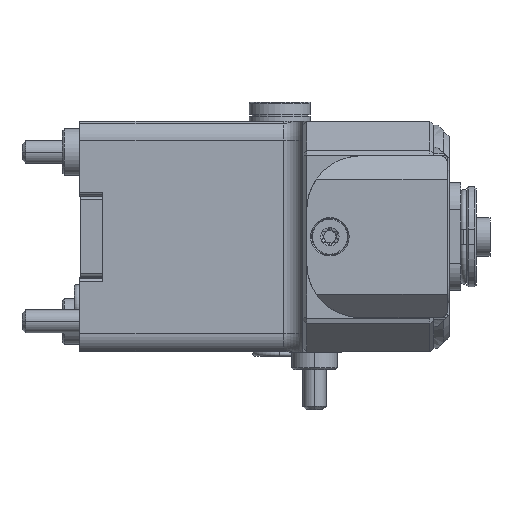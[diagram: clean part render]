
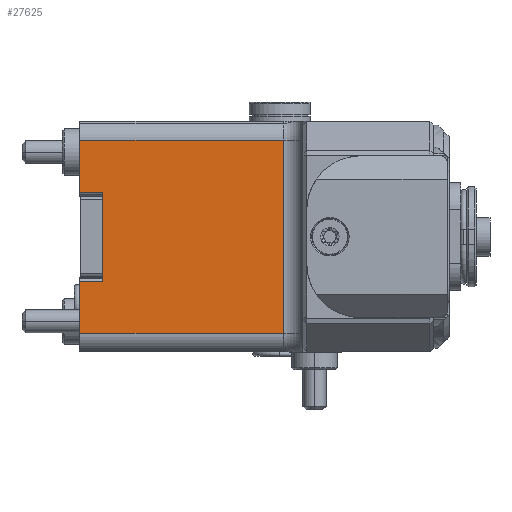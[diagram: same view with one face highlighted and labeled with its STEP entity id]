
A CAD part, left-side view. The second image highlights one B-rep face of the part: STEP entity #27625.
In plain terms, the highlighted planar face has unit normal (-1, 0, 0).
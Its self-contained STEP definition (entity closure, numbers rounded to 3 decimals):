
#779 = VECTOR ( 'NONE', #14873, 1000. ) ;
#2294 = CARTESIAN_POINT ( 'NONE',  ( -21., 44., -5.75 ) ) ;
#5869 = EDGE_CURVE ( 'NONE', #45441, #49075, #58848, .T. ) ;
#6076 = VECTOR ( 'NONE', #61232, 1000. ) ;
#6205 = VECTOR ( 'NONE', #43811, 1000. ) ;
#9850 = LINE ( 'NONE', #73373, #38852 ) ;
#10251 = DIRECTION ( 'NONE',  ( 0., 0., -1. ) ) ;
#10562 = CARTESIAN_POINT ( 'NONE',  ( -21., 47., 15. ) ) ;
#12700 = VECTOR ( 'NONE', #71350, 1000. ) ;
#13379 = VERTEX_POINT ( 'NONE', #26087 ) ;
#14873 = DIRECTION ( 'NONE',  ( 0., -1., 0. ) ) ;
#15525 = EDGE_CURVE ( 'NONE', #40014, #17457, #9850, .T. ) ;
#16005 = ORIENTED_EDGE ( 'NONE', *, *, #36478, .T. ) ;
#16882 = VECTOR ( 'NONE', #28068, 1000. ) ;
#17457 = VERTEX_POINT ( 'NONE', #39023 ) ;
#17972 = VERTEX_POINT ( 'NONE', #69685 ) ;
#18291 = EDGE_LOOP ( 'NONE', ( #21430, #28668, #43884, #65641, #69572, #56098, #16005, #22168 ) ) ;
#18468 = VECTOR ( 'NONE', #72435, 1000. ) ;
#19970 = AXIS2_PLACEMENT_3D ( 'NONE', #36822, #60051, #25457 ) ;
#20734 = CARTESIAN_POINT ( 'NONE',  ( -21., 18., -12.557 ) ) ;
#20841 = CARTESIAN_POINT ( 'NONE',  ( -21., 43.452, 5.75 ) ) ;
#21430 = ORIENTED_EDGE ( 'NONE', *, *, #49739, .F. ) ;
#22168 = ORIENTED_EDGE ( 'NONE', *, *, #15525, .T. ) ;
#25457 = DIRECTION ( 'NONE',  ( 0., 1., 0. ) ) ;
#26087 = CARTESIAN_POINT ( 'NONE',  ( -21., 20.5, 12.557 ) ) ;
#27625 = ADVANCED_FACE ( 'NONE', ( #45559 ), #48468, .F. ) ;
#28068 = DIRECTION ( 'NONE',  ( 0., 0., -1. ) ) ;
#28668 = ORIENTED_EDGE ( 'NONE', *, *, #5869, .F. ) ;
#29849 = LINE ( 'NONE', #20734, #779 ) ;
#33585 = CARTESIAN_POINT ( 'NONE',  ( -21., 47., -5.75 ) ) ;
#34284 = CARTESIAN_POINT ( 'NONE',  ( -21., 47., 12.557 ) ) ;
#34898 = CARTESIAN_POINT ( 'NONE',  ( -21., 20.5, -12.557 ) ) ;
#35040 = LINE ( 'NONE', #20841, #6076 ) ;
#36129 = LINE ( 'NONE', #74694, #72195 ) ;
#36478 = EDGE_CURVE ( 'NONE', #13379, #40014, #49190, .T. ) ;
#36806 = CARTESIAN_POINT ( 'NONE',  ( -21., 44., -5.275 ) ) ;
#36822 = CARTESIAN_POINT ( 'NONE',  ( -21., 47., 15. ) ) ;
#38852 = VECTOR ( 'NONE', #10251, 1000. ) ;
#39023 = CARTESIAN_POINT ( 'NONE',  ( -21., 47., 5.75 ) ) ;
#40014 = VERTEX_POINT ( 'NONE', #34284 ) ;
#42803 = CARTESIAN_POINT ( 'NONE',  ( -21., 44., 5.75 ) ) ;
#43811 = DIRECTION ( 'NONE',  ( 0., 1., 0. ) ) ;
#43884 = ORIENTED_EDGE ( 'NONE', *, *, #47561, .T. ) ;
#44333 = EDGE_CURVE ( 'NONE', #17972, #59142, #29849, .T. ) ;
#44798 = VERTEX_POINT ( 'NONE', #33585 ) ;
#45441 = VERTEX_POINT ( 'NONE', #2294 ) ;
#45559 = FACE_OUTER_BOUND ( 'NONE', #18291, .T. ) ;
#47561 = EDGE_CURVE ( 'NONE', #45441, #44798, #52403, .T. ) ;
#48468 = PLANE ( 'NONE',  #19970 ) ;
#49075 = VERTEX_POINT ( 'NONE', #42803 ) ;
#49190 = LINE ( 'NONE', #60890, #18468 ) ;
#49602 = CARTESIAN_POINT ( 'NONE',  ( -21., 43.452, -5.75 ) ) ;
#49739 = EDGE_CURVE ( 'NONE', #49075, #17457, #35040, .T. ) ;
#52403 = LINE ( 'NONE', #49602, #6205 ) ;
#56098 = ORIENTED_EDGE ( 'NONE', *, *, #59065, .T. ) ;
#58848 = LINE ( 'NONE', #36806, #12700 ) ;
#59065 = EDGE_CURVE ( 'NONE', #59142, #13379, #36129, .T. ) ;
#59142 = VERTEX_POINT ( 'NONE', #34898 ) ;
#60051 = DIRECTION ( 'NONE',  ( 1., 0., 0. ) ) ;
#60890 = CARTESIAN_POINT ( 'NONE',  ( -21., 47., 12.557 ) ) ;
#61232 = DIRECTION ( 'NONE',  ( 0., 1., 0. ) ) ;
#62943 = LINE ( 'NONE', #10562, #16882 ) ;
#65641 = ORIENTED_EDGE ( 'NONE', *, *, #70819, .T. ) ;
#68951 = DIRECTION ( 'NONE',  ( 0., 0., 1. ) ) ;
#69572 = ORIENTED_EDGE ( 'NONE', *, *, #44333, .T. ) ;
#69685 = CARTESIAN_POINT ( 'NONE',  ( -21., 47., -12.557 ) ) ;
#70819 = EDGE_CURVE ( 'NONE', #44798, #17972, #62943, .T. ) ;
#71350 = DIRECTION ( 'NONE',  ( 0., 0., 1. ) ) ;
#72195 = VECTOR ( 'NONE', #68951, 1000. ) ;
#72435 = DIRECTION ( 'NONE',  ( 0., 1., 0. ) ) ;
#73373 = CARTESIAN_POINT ( 'NONE',  ( -21., 47., 15. ) ) ;
#74694 = CARTESIAN_POINT ( 'NONE',  ( -21., 20.5, 12.557 ) ) ;
